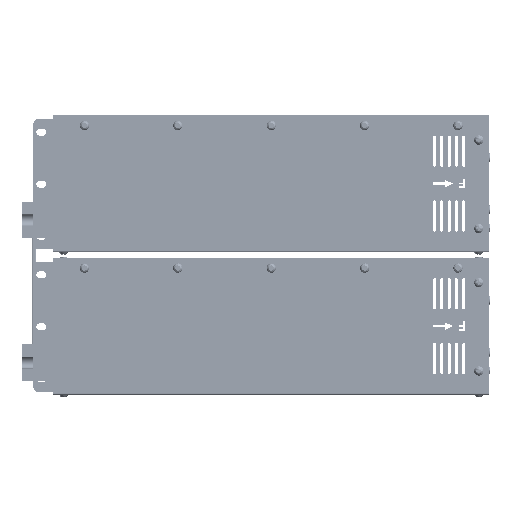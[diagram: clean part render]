
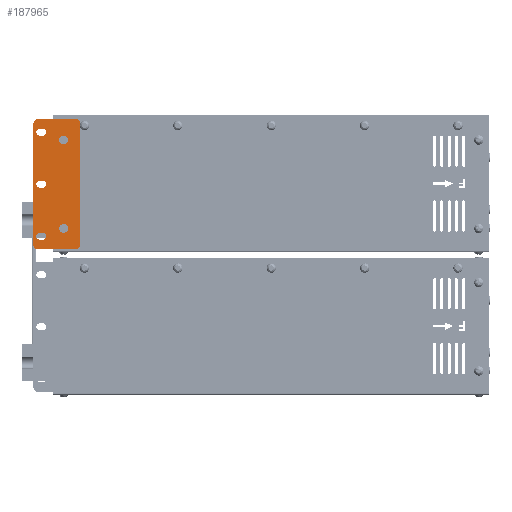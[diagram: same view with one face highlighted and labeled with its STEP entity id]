
A CAD part, front view. The second image highlights one B-rep face of the part: STEP entity #187965.
In plain terms, the highlighted planar face has unit normal (0, -1, 0).
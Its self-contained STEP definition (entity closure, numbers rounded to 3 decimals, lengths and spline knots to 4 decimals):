
#8136=FACE_BOUND('',#32629,.T.);
#8137=FACE_BOUND('',#32630,.T.);
#8138=FACE_BOUND('',#32631,.T.);
#8139=FACE_BOUND('',#32632,.T.);
#8140=FACE_BOUND('',#32633,.T.);
#12249=CIRCLE('',#200316,0.1673);
#12251=CIRCLE('',#200319,0.1575);
#12252=CIRCLE('',#200320,0.1575);
#12253=CIRCLE('',#200321,0.1575);
#12254=CIRCLE('',#200322,0.1575);
#12255=CIRCLE('',#200323,0.1673);
#12256=CIRCLE('',#200324,0.1299);
#12257=CIRCLE('',#200325,0.1299);
#12258=CIRCLE('',#200326,0.1299);
#12259=CIRCLE('',#200327,0.1299);
#12260=CIRCLE('',#200328,0.1299);
#12261=CIRCLE('',#200329,0.1299);
#22547=FACE_OUTER_BOUND('',#32628,.T.);
#32628=EDGE_LOOP('',(#143677,#143678,#143679,#143680,#143681,#143682,#143683,
#143684));
#32629=EDGE_LOOP('',(#143685));
#32630=EDGE_LOOP('',(#143686,#143687,#143688,#143689));
#32631=EDGE_LOOP('',(#143690,#143691,#143692,#143693));
#32632=EDGE_LOOP('',(#143694,#143695,#143696,#143697));
#32633=EDGE_LOOP('',(#143698));
#45771=LINE('',#315362,#61239);
#45791=LINE('',#315430,#61259);
#45792=LINE('',#315435,#61260);
#45793=LINE('',#315439,#61261);
#45794=LINE('',#315445,#61262);
#45795=LINE('',#315449,#61263);
#45796=LINE('',#315453,#61264);
#45797=LINE('',#315457,#61265);
#45798=LINE('',#315461,#61266);
#45799=LINE('',#315465,#61267);
#61239=VECTOR('',#230942,0.3937);
#61259=VECTOR('',#230996,0.3937);
#61260=VECTOR('',#231001,0.3937);
#61261=VECTOR('',#231004,0.3937);
#61262=VECTOR('',#231009,0.3937);
#61263=VECTOR('',#231012,0.3937);
#61264=VECTOR('',#231015,0.3937);
#61265=VECTOR('',#231018,0.3937);
#61266=VECTOR('',#231021,0.3937);
#61267=VECTOR('',#231024,0.3937);
#78600=VERTEX_POINT('',#315359);
#78601=VERTEX_POINT('',#315361);
#78629=VERTEX_POINT('',#315422);
#78631=VERTEX_POINT('',#315428);
#78632=VERTEX_POINT('',#315429);
#78633=VERTEX_POINT('',#315432);
#78634=VERTEX_POINT('',#315434);
#78635=VERTEX_POINT('',#315436);
#78636=VERTEX_POINT('',#315438);
#78637=VERTEX_POINT('',#315441);
#78638=VERTEX_POINT('',#315443);
#78639=VERTEX_POINT('',#315444);
#78640=VERTEX_POINT('',#315446);
#78641=VERTEX_POINT('',#315448);
#78642=VERTEX_POINT('',#315451);
#78643=VERTEX_POINT('',#315452);
#78644=VERTEX_POINT('',#315454);
#78645=VERTEX_POINT('',#315456);
#78646=VERTEX_POINT('',#315459);
#78647=VERTEX_POINT('',#315460);
#78648=VERTEX_POINT('',#315462);
#78649=VERTEX_POINT('',#315464);
#102052=EDGE_CURVE('',#78601,#78600,#45771,.T.);
#102081=EDGE_CURVE('',#78629,#78629,#12249,.T.);
#102084=EDGE_CURVE('',#78631,#78632,#45791,.T.);
#102085=EDGE_CURVE('',#78632,#78601,#12251,.T.);
#102086=EDGE_CURVE('',#78600,#78633,#12252,.T.);
#102087=EDGE_CURVE('',#78633,#78634,#45792,.T.);
#102088=EDGE_CURVE('',#78634,#78635,#12253,.T.);
#102089=EDGE_CURVE('',#78635,#78636,#45793,.T.);
#102090=EDGE_CURVE('',#78636,#78631,#12254,.T.);
#102091=EDGE_CURVE('',#78637,#78637,#12255,.T.);
#102092=EDGE_CURVE('',#78638,#78639,#45794,.T.);
#102093=EDGE_CURVE('',#78639,#78640,#12256,.T.);
#102094=EDGE_CURVE('',#78640,#78641,#45795,.T.);
#102095=EDGE_CURVE('',#78641,#78638,#12257,.T.);
#102096=EDGE_CURVE('',#78642,#78643,#45796,.T.);
#102097=EDGE_CURVE('',#78643,#78644,#12258,.T.);
#102098=EDGE_CURVE('',#78644,#78645,#45797,.T.);
#102099=EDGE_CURVE('',#78645,#78642,#12259,.T.);
#102100=EDGE_CURVE('',#78646,#78647,#45798,.T.);
#102101=EDGE_CURVE('',#78647,#78648,#12260,.T.);
#102102=EDGE_CURVE('',#78648,#78649,#45799,.T.);
#102103=EDGE_CURVE('',#78649,#78646,#12261,.T.);
#143677=ORIENTED_EDGE('',*,*,#102084,.T.);
#143678=ORIENTED_EDGE('',*,*,#102085,.T.);
#143679=ORIENTED_EDGE('',*,*,#102052,.T.);
#143680=ORIENTED_EDGE('',*,*,#102086,.T.);
#143681=ORIENTED_EDGE('',*,*,#102087,.T.);
#143682=ORIENTED_EDGE('',*,*,#102088,.T.);
#143683=ORIENTED_EDGE('',*,*,#102089,.T.);
#143684=ORIENTED_EDGE('',*,*,#102090,.T.);
#143685=ORIENTED_EDGE('',*,*,#102091,.F.);
#143686=ORIENTED_EDGE('',*,*,#102092,.T.);
#143687=ORIENTED_EDGE('',*,*,#102093,.T.);
#143688=ORIENTED_EDGE('',*,*,#102094,.T.);
#143689=ORIENTED_EDGE('',*,*,#102095,.T.);
#143690=ORIENTED_EDGE('',*,*,#102096,.T.);
#143691=ORIENTED_EDGE('',*,*,#102097,.T.);
#143692=ORIENTED_EDGE('',*,*,#102098,.T.);
#143693=ORIENTED_EDGE('',*,*,#102099,.T.);
#143694=ORIENTED_EDGE('',*,*,#102100,.T.);
#143695=ORIENTED_EDGE('',*,*,#102101,.T.);
#143696=ORIENTED_EDGE('',*,*,#102102,.T.);
#143697=ORIENTED_EDGE('',*,*,#102103,.T.);
#143698=ORIENTED_EDGE('',*,*,#102081,.F.);
#173729=PLANE('',#200318);
#187965=ADVANCED_FACE('',(#22547,#8136,#8137,#8138,#8139,#8140),#173729,
 .T.);
#200316=AXIS2_PLACEMENT_3D('',#315423,#230989,#230990);
#200318=AXIS2_PLACEMENT_3D('',#315427,#230994,#230995);
#200319=AXIS2_PLACEMENT_3D('',#315431,#230997,#230998);
#200320=AXIS2_PLACEMENT_3D('',#315433,#230999,#231000);
#200321=AXIS2_PLACEMENT_3D('',#315437,#231002,#231003);
#200322=AXIS2_PLACEMENT_3D('',#315440,#231005,#231006);
#200323=AXIS2_PLACEMENT_3D('',#315442,#231007,#231008);
#200324=AXIS2_PLACEMENT_3D('',#315447,#231010,#231011);
#200325=AXIS2_PLACEMENT_3D('',#315450,#231013,#231014);
#200326=AXIS2_PLACEMENT_3D('',#315455,#231016,#231017);
#200327=AXIS2_PLACEMENT_3D('',#315458,#231019,#231020);
#200328=AXIS2_PLACEMENT_3D('',#315463,#231022,#231023);
#200329=AXIS2_PLACEMENT_3D('',#315466,#231025,#231026);
#230942=DIRECTION('',(0.,0.,1.));
#230989=DIRECTION('center_axis',(0.,-1.,0.));
#230990=DIRECTION('ref_axis',(-1.,0.,0.));
#230994=DIRECTION('center_axis',(0.,-1.,0.));
#230995=DIRECTION('ref_axis',(1.,0.,0.));
#230996=DIRECTION('',(1.,0.,0.));
#230997=DIRECTION('center_axis',(0.,-1.,0.));
#230998=DIRECTION('ref_axis',(0.,0.,
-1.));
#230999=DIRECTION('center_axis',(0.,-1.,0.));
#231000=DIRECTION('ref_axis',(1.,0.,0.));
#231001=DIRECTION('',(-1.,0.,0.));
#231002=DIRECTION('center_axis',(0.,-1.,0.));
#231003=DIRECTION('ref_axis',(0.,0.,
1.));
#231004=DIRECTION('',(0.,0.,-1.));
#231005=DIRECTION('center_axis',(0.,-1.,0.));
#231006=DIRECTION('ref_axis',(-1.,0.,0.));
#231007=DIRECTION('center_axis',(0.,-1.,0.));
#231008=DIRECTION('ref_axis',(-1.,0.,0.));
#231009=DIRECTION('',(-1.,0.,0.));
#231010=DIRECTION('center_axis',(0.,1.,0.));
#231011=DIRECTION('ref_axis',(0.,0.,
-1.));
#231012=DIRECTION('',(1.,0.,0.));
#231013=DIRECTION('center_axis',(0.,1.,0.));
#231014=DIRECTION('ref_axis',(0.,0.,
1.));
#231015=DIRECTION('',(-1.,0.,0.));
#231016=DIRECTION('center_axis',(0.,1.,0.));
#231017=DIRECTION('ref_axis',(0.,0.,
-1.));
#231018=DIRECTION('',(1.,0.,0.));
#231019=DIRECTION('center_axis',(0.,1.,0.));
#231020=DIRECTION('ref_axis',(0.,0.,
1.));
#231021=DIRECTION('',(-1.,0.,0.));
#231022=DIRECTION('center_axis',(0.,1.,0.));
#231023=DIRECTION('ref_axis',(0.,0.,
-1.));
#231024=DIRECTION('',(1.,0.,0.));
#231025=DIRECTION('center_axis',(0.,1.,0.));
#231026=DIRECTION('ref_axis',(0.,0.,
1.));
#315359=CARTESIAN_POINT('',(-6.2401,-0.1181,7.945));
#315361=CARTESIAN_POINT('',(-6.2401,-0.1181,3.3387));
#315362=CARTESIAN_POINT('',(-6.2401,-0.1181,3.3387));
#315422=CARTESIAN_POINT('',(-6.7027,-0.1181,7.3151));
#315423=CARTESIAN_POINT('Origin',(-6.87,-0.1181,
7.3151));
#315427=CARTESIAN_POINT('Origin',(-7.1259,-0.1181,
5.6419));
#315428=CARTESIAN_POINT('',(-7.8543,-0.1181,3.1812));
#315429=CARTESIAN_POINT('',(-6.3976,-0.1181,3.1812));
#315430=CARTESIAN_POINT('',(-7.8543,-0.1181,3.1812));
#315431=CARTESIAN_POINT('Origin',(-6.3976,-0.1181,
3.3387));
#315432=CARTESIAN_POINT('',(-6.3976,-0.1181,8.1025));
#315433=CARTESIAN_POINT('Origin',(-6.3976,-0.1181,
7.945));
#315434=CARTESIAN_POINT('',(-7.8543,-0.1181,8.1025));
#315435=CARTESIAN_POINT('',(-6.3976,-0.1181,8.1025));
#315436=CARTESIAN_POINT('',(-8.0118,-0.1181,7.945));
#315437=CARTESIAN_POINT('Origin',(-7.8543,-0.1181,
7.945));
#315438=CARTESIAN_POINT('',(-8.0118,-0.1181,3.3387));
#315439=CARTESIAN_POINT('',(-8.0118,-0.1181,7.945));
#315440=CARTESIAN_POINT('Origin',(-7.8543,-0.1181,
3.3387));
#315441=CARTESIAN_POINT('',(-6.7027,-0.1181,3.9686));
#315442=CARTESIAN_POINT('Origin',(-6.87,-0.1181,
3.9686));
#315443=CARTESIAN_POINT('',(-7.6574,-0.1181,3.5434));
#315444=CARTESIAN_POINT('',(-7.7755,-0.1181,3.5434));
#315445=CARTESIAN_POINT('',(-7.6574,-0.1181,3.5434));
#315446=CARTESIAN_POINT('',(-7.7755,-0.1181,3.8033));
#315447=CARTESIAN_POINT('Origin',(-7.7755,-0.1181,
3.6733));
#315448=CARTESIAN_POINT('',(-7.6574,-0.1181,3.8033));
#315449=CARTESIAN_POINT('',(-7.7755,-0.1181,3.8033));
#315450=CARTESIAN_POINT('Origin',(-7.6574,-0.1181,
3.6733));
#315451=CARTESIAN_POINT('',(-7.6574,-0.1181,5.5119));
#315452=CARTESIAN_POINT('',(-7.7755,-0.1181,5.5119));
#315453=CARTESIAN_POINT('',(-7.6574,-0.1181,5.5119));
#315454=CARTESIAN_POINT('',(-7.7755,-0.1181,5.7718));
#315455=CARTESIAN_POINT('Origin',(-7.7755,-0.1181,
5.6419));
#315456=CARTESIAN_POINT('',(-7.6574,-0.1181,5.7718));
#315457=CARTESIAN_POINT('',(-7.7755,-0.1181,5.7718));
#315458=CARTESIAN_POINT('Origin',(-7.6574,-0.1181,
5.6419));
#315459=CARTESIAN_POINT('',(-7.6574,-0.1181,7.4804));
#315460=CARTESIAN_POINT('',(-7.7755,-0.1181,7.4804));
#315461=CARTESIAN_POINT('',(-7.6574,-0.1181,7.4804));
#315462=CARTESIAN_POINT('',(-7.7755,-0.1181,7.7403));
#315463=CARTESIAN_POINT('Origin',(-7.7755,-0.1181,
7.6104));
#315464=CARTESIAN_POINT('',(-7.6574,-0.1181,7.7403));
#315465=CARTESIAN_POINT('',(-7.7755,-0.1181,7.7403));
#315466=CARTESIAN_POINT('Origin',(-7.6574,-0.1181,
7.6104));
